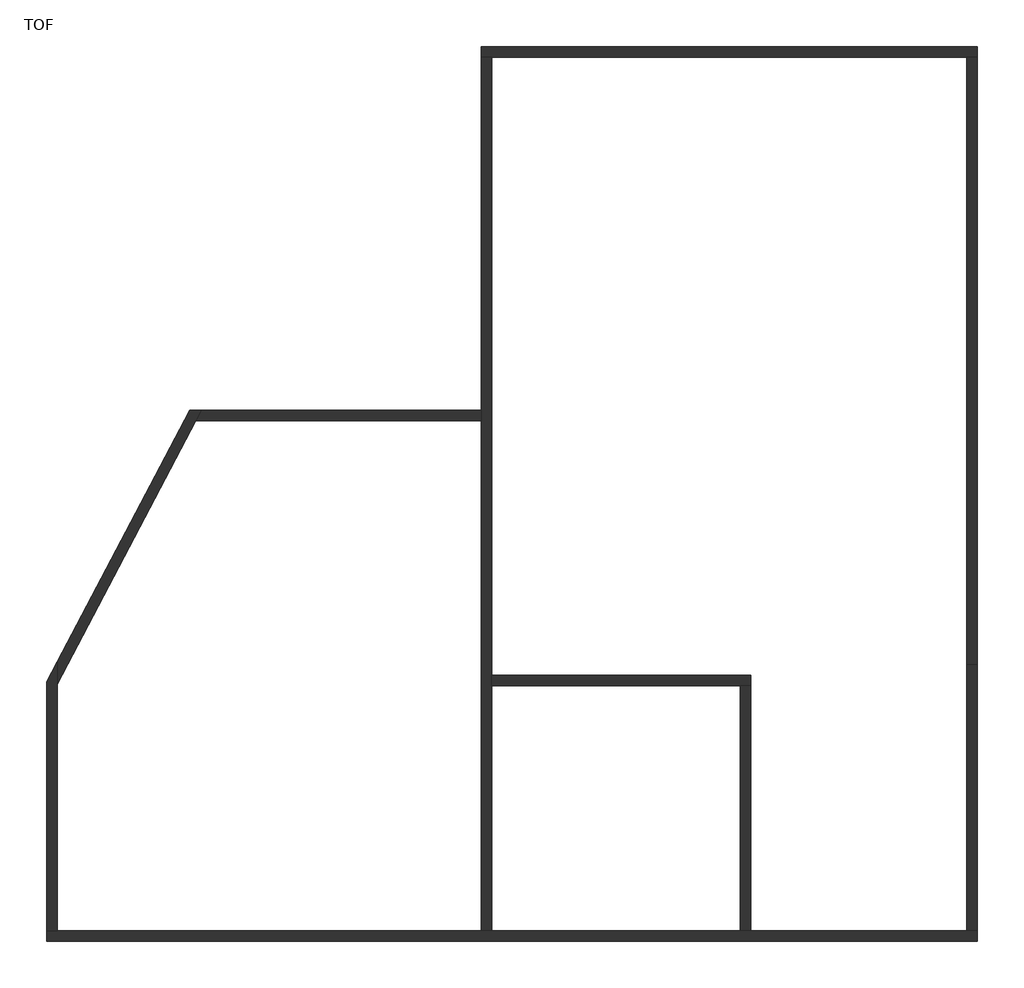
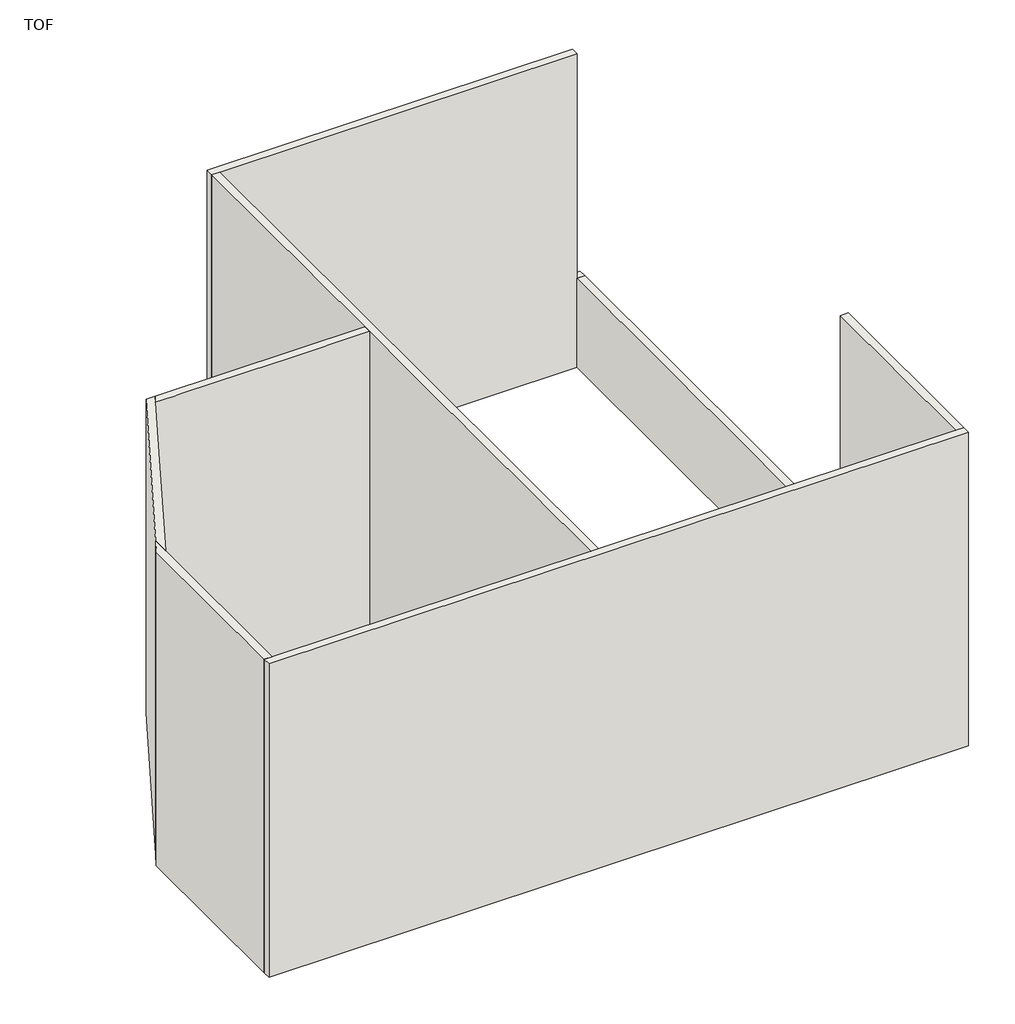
# One storey: 10 walls.
"""IFC4 building model written with IfcOpenShell, lengths in millimetres."""

from ifc_helpers import new_model, si_unit, frame, origin, place, context, project, spatial, polyline, outline, extrude, faceted_brep, element, save

model = new_model("IFC4")

# Units and contexts
model_context = context("Model", 3, world=origin())
ifc_project = project(units=[si_unit("LENGTHUNIT", "METRE", prefix="MILLI")], contexts=[model_context])

# Site, building, storey
site = spatial("IfcSite", under=ifc_project)
building = spatial("IfcBuilding", under=site)
storey = spatial("IfcBuildingStorey", under=building, Name="TOF", Elevation=-2413.0)

# Walls
placement = place(None, origin())
element("IfcWall", 1, ObjectType="Foundation - 8\" Concrete", at=placement, inside=storey, context=model_context, shape_type="Brep", body=[
    faceted_brep([(-101.6, -101.6, -2413.0), (17856.2, -101.6, -2413.0), (17856.2, -101.6, 6096.0), (-101.6, -101.6, 6096.0), (-101.6, 101.6, -2413.0), (-101.6, 101.6, 6096.0), (101.6, 101.6, 6096.0), (8280.4, 101.6, 6096.0), (8483.6, 101.6, 6096.0), (17653.0, 101.6, 6096.0), (17856.2, 101.6, 6096.0), (17856.2, 101.6, -2413.0), (17653.0, 101.6, -2413.0), (13487.4, 101.6, -2413.0), (13284.2, 101.6, -2413.0), (8483.6, 101.6, -2413.0), (8280.4, 101.6, -2413.0), (101.6, 101.6, -2413.0)], [[[0, 1, 2, 3]], [[4, 5, 6, 7, 8, 9, 10, 11, 12, 13, 14, 15, 16, 17]], [[1, 0, 4, 17, 16, 15, 14, 13, 12, 11]], [[3, 2, 10, 9, 8, 7, 6, 5]], [[2, 1, 11, 10]], [[0, 3, 5, 4]]]),
])
element("IfcWall", 2, ObjectType="Foundation - 8\" Concrete", at=placement, inside=storey, context=model_context, shape_type="Brep", body=[
    faceted_brep([(17856.2, 101.6, -2413.0), (17856.2, 5232.4, -2413.0), (17856.2, 5232.4, 0.0), (17856.2, 5232.4, 6096.0), (17856.2, 101.6, 6096.0), (17653.0, 101.6, -2413.0), (17653.0, 101.6, 6096.0), (17653.0, 5232.4, 6096.0), (17653.0, 5232.4, 0.0), (17653.0, 5232.4, -2413.0)], [[[0, 1, 2, 3, 4]], [[5, 6, 7, 8, 9]], [[1, 0, 5, 9]], [[4, 3, 7, 6]], [[0, 4, 6, 5]], [[3, 2, 1, 9, 8, 7]]]),
])
element("IfcWall", 3, ObjectType="Foundation - 8\" Concrete", at=placement, inside=storey, context=model_context, shape_type="Brep", body=[
    faceted_brep([(13487.4, 5029.2, -2413.0), (8483.6, 5029.2, -2413.0), (8483.6, 5029.2, 0.0), (13487.4, 5029.2, 0.0), (13487.4, 4826.0, -2413.0), (13487.4, 4826.0, 0.0), (13284.2, 4826.0, 0.0), (8483.6, 4826.0, 0.0), (8483.6, 4826.0, -2413.0), (13284.2, 4826.0, -2413.0)], [[[0, 1, 2, 3]], [[4, 5, 6, 7, 8, 9]], [[1, 0, 4, 9, 8]], [[3, 2, 7, 6, 5]], [[2, 1, 8, 7]], [[0, 3, 5, 4]]]),
])
element("IfcWall", 4, ObjectType="Foundation - 8\" Concrete", at=placement, inside=storey, context=model_context, shape_type="Brep", body=[
    faceted_brep([(17856.2, 17155.6775945, -2413.0), (8280.4, 17155.6775945, -2413.0), (8280.4, 17155.6775945, 6096.0), (17653.0, 17155.6775945, 6096.0), (17653.0, 17155.6775945, 0.0), (17856.2, 17155.6775945, 0.0), (17856.2, 16952.4775945, -2413.0), (17856.2, 16952.4775945, 0.0), (17653.0, 16952.4775945, 0.0), (17653.0, 16952.4775945, 6096.0), (8483.6, 16952.4775945, 6096.0), (8280.4, 16952.4775945, 6096.0), (8280.4, 16952.4775945, -2413.0), (8483.6, 16952.4775945, -2413.0), (17653.0, 16952.4775945, -2413.0)], [[[0, 1, 2, 3, 4, 5]], [[6, 7, 8, 9, 10, 11, 12, 13, 14]], [[1, 0, 6, 14, 13, 12]], [[3, 2, 11, 10, 9]], [[4, 8, 7, 5]], [[0, 5, 7, 6]], [[4, 3, 9, 8]], [[2, 1, 12, 11]]]),
])
element("IfcWall", 5, ObjectType="Foundation - 8\" Concrete", at=placement, inside=storey, context=model_context, shape_type="Brep", body=[
    faceted_brep([(101.6, 101.6, -2413.0), (101.6, 4851.6914149, -2413.0), (101.6, 5287.9167534, -2413.0), (101.6, 5287.9167534, 6096.0), (101.6, 4851.6914149, 6096.0), (101.6, 101.6, 6096.0), (-101.6, 101.6, -2413.0), (-101.6, 101.6, 6096.0), (-101.6, 4901.9085851, 6096.0), (-101.6, 4901.9085851, -2413.0)], [[[0, 1, 2, 3, 4, 5]], [[6, 7, 8, 9]], [[2, 1, 0, 6, 9]], [[5, 4, 3, 8, 7]], [[0, 5, 7, 6]], [[3, 2, 9, 8]]]),
])
element("IfcWall", 6, ObjectType="Foundation - 8\" Concrete", at=placement, inside=storey, context=model_context, shape_type="Brep", body=[
    faceted_brep([(101.6, 4851.6914149, -2413.0), (2779.1338689, 9938.0592507, -2413.0), (2886.101139, 10141.2592507, -2413.0), (2886.101139, 10141.2592507, 6096.0), (2779.1338689, 9938.0592507, 6096.0), (1607.4678101, 7712.307926, 6096.0), (1500.50054, 7509.107926, 6096.0), (101.6, 4851.6914149, 6096.0), (101.6, 5287.9167534, -2413.0), (101.6, 5287.9167534, 6096.0), (2656.4661311, 10141.2592507, 6096.0), (2656.4661311, 10141.2592507, -2413.0)], [[[0, 1, 2, 3, 4, 5, 6, 7]], [[8, 9, 10, 11]], [[2, 1, 0, 8, 11]], [[7, 6, 5, 4, 3, 10, 9]], [[0, 7, 9, 8]], [[3, 2, 11, 10]]]),
])
element("IfcWall", 7, ObjectType="Foundation - 8\" Concrete", at=placement, inside=storey, context=model_context, shape_type="Brep", body=[
    faceted_brep([(2779.1338689, 9938.0592507, -2413.0), (8280.4, 9938.0592507, -2413.0), (8280.4, 9938.0592507, 6096.0), (6060.0661311, 9938.0592507, 6096.0), (5856.8661311, 9938.0592507, 6096.0), (3469.2661311, 9938.0592507, 6096.0), (3266.0661311, 9938.0592507, 6096.0), (2779.1338689, 9938.0592507, 6096.0), (2886.101139, 10141.2592507, -2413.0), (2886.101139, 10141.2592507, 6096.0), (8280.4, 10141.2592507, 6096.0), (8280.4, 10141.2592507, -2413.0)], [[[0, 1, 2, 3, 4, 5, 6, 7]], [[8, 9, 10, 11]], [[1, 0, 8, 11]], [[7, 6, 5, 4, 3, 2, 10, 9]], [[2, 1, 11, 10]], [[0, 7, 9, 8]]]),
])
element("IfcWall", 8, ObjectType="Foundation - 8\" Concrete", at=placement, inside=storey, context=model_context, shape_type="SweptSolid", body=[
    extrude(outline(polyline([(13487.4, 4826.0), (13487.4, 101.6), (13284.2, 101.6), (13284.2, 4826.0), (13487.4, 4826.0)])), frame((0.0, 0.0, -2413.0), z_axis=(0.0, 0.0, 1.0), x_axis=(1.0, 0.0, 0.0)), (0.0, 0.0, 1.0), 2413.0),
])
element("IfcWall", 9, ObjectType="Foundation - 8\" Concrete", at=placement, inside=storey, context=model_context, shape_type="Brep", body=[
    faceted_brep([(8483.6, 101.6, -2413.0), (8483.6, 4826.0, -2413.0), (8483.6, 5029.2, -2413.0), (8483.6, 16952.4775945, -2413.0), (8483.6, 16952.4775945, 6096.0), (8483.6, 7712.307926, 6096.0), (8483.6, 7509.107926, 6096.0), (8483.6, 101.6, 6096.0), (8280.4, 101.6, -2413.0), (8280.4, 101.6, 6096.0), (8280.4, 7509.107926, 6096.0), (8280.4, 7712.307926, 6096.0), (8280.4, 9938.0592507, 6096.0), (8280.4, 10141.2592507, 6096.0), (8280.4, 16952.4775945, 6096.0), (8280.4, 16952.4775945, -2413.0), (8280.4, 10141.2592507, -2413.0), (8280.4, 9938.0592507, -2413.0)], [[[0, 1, 2, 3, 4, 5, 6, 7]], [[8, 9, 10, 11, 12, 13, 14, 15, 16, 17]], [[3, 2, 1, 0, 8, 17, 16, 15]], [[7, 6, 5, 4, 14, 13, 12, 11, 10, 9]], [[0, 7, 9, 8]], [[4, 3, 15, 14]]]),
])
element("IfcWall", 10, ObjectType="Foundation - 8\" Concrete", at=placement, inside=storey, context=model_context, shape_type="SweptSolid", body=[
    extrude(outline(polyline([(17856.2, 16952.4775945), (17856.2, 5232.4), (17653.0, 5232.4), (17653.0, 16952.4775945), (17856.2, 16952.4775945)])), frame((0.0, 0.0, -2413.0), z_axis=(0.0, 0.0, 1.0), x_axis=(1.0, 0.0, 0.0)), (0.0, 0.0, 1.0), 2413.0),
])

save(model, "model.ifc")
